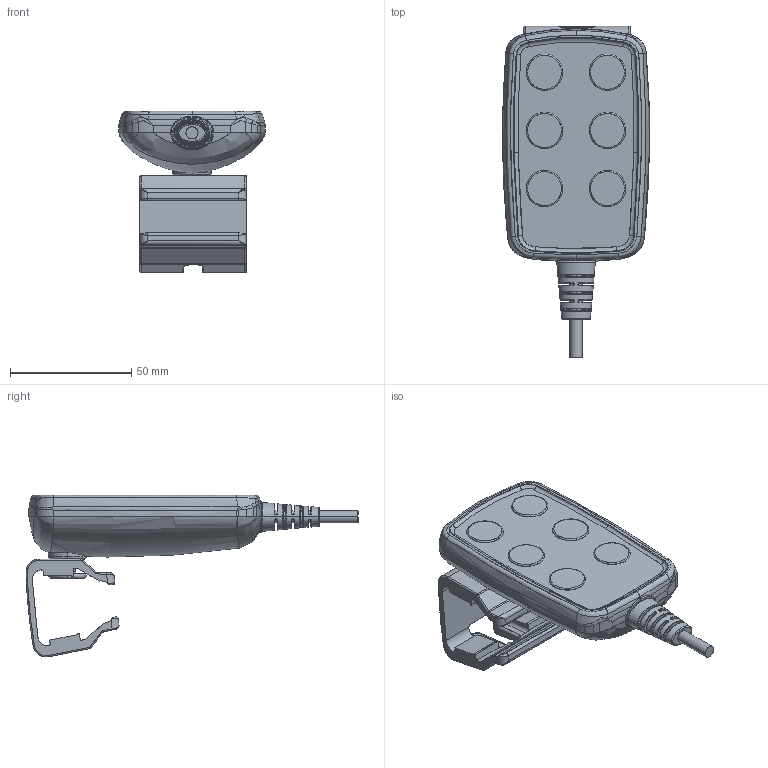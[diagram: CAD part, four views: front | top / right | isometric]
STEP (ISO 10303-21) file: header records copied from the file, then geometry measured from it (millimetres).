
FILE_DESCRIPTION (( 'STEP AP203' ), '1' );
FILE_NAME ('3D_TH24.STEP', '2017-07-07T04:33:44', ( '' ), ( '' ), 'SwSTEP 2.0', 'SolidWorks 2015', '' );
FILE_SCHEMA (( 'CONFIG_CONTROL_DESIGN' ));
Length unit declared in the file: millimetre
Products named in the file (1): 3D_TH24
Bounding box: 60.66 x 136.99 x 66.76 mm (x, y, z)
Surface area: 38618 mm2 (no closed solid volume)
Topology: 0 solids, 640 shells, 657 faces, 2781 edges, 2754 vertices
Faces by surface type: bspline 315, cylinder 198, plane 115, sphere 17, torus 12
Entity records: 80856 total; most frequent: CARTESIAN_POINT 62599, ORIENTED_EDGE 2785, EDGE_CURVE 2768, VERTEX_POINT 2751, DIRECTION 2577, B_SPLINE_CURVE_WITH_KNOTS 1316, AXIS2_PLACEMENT_3D 941, VECTOR 695
